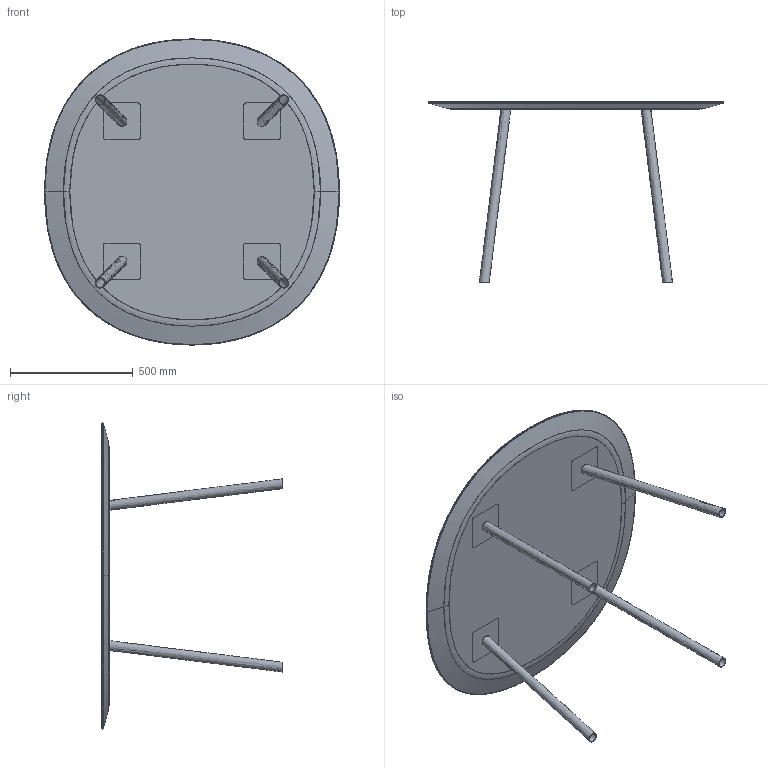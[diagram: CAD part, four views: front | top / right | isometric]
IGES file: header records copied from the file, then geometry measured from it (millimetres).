
Start section: SolidWorks IGES file using NURBS representation for surfaces
Global section: file name: W:\01-VICCARBE\PRODUCTOS\48-MAARTEN MESA\04-MODELADOS (PLANOS)\2-WEB\Piezas\IGS\VICCARBE_Maarten_120.IGS; native system: SolidWorks 2013; preprocessor: SolidWorks 2013; author: Usuario; date: 140904.103444; units: millimetre
Bounding box: 1200.01 x 734 x 1245.63 mm (x, y, z)
Surface area: 3361750.5 mm2 (no closed solid volume)
Topology: 0 solids, 0 shells, 72 faces, 352 edges, 334 vertices
Faces by surface type: bspline 72
